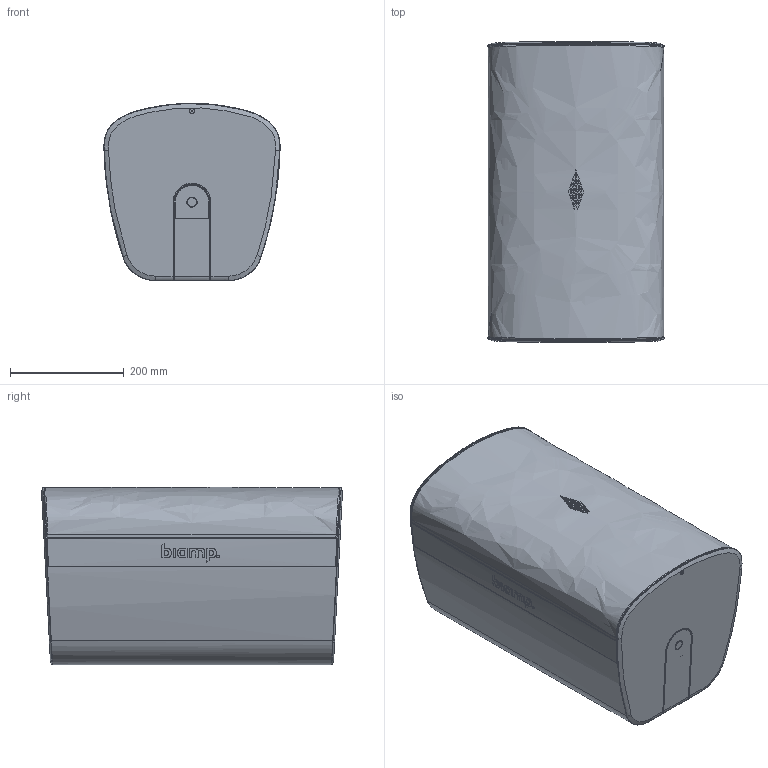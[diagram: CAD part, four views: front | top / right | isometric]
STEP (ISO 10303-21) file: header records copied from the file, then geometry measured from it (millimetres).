
FILE_DESCRIPTION (( 'STEP AP214' ), '1' );
FILE_NAME ('DESONO EX-S10.STEP', '2022-01-11T22:13:16', ( '' ), ( '' ), 'SwSTEP 2.0', 'SolidWorks 2021', '' );
FILE_SCHEMA (( 'AUTOMOTIVE_DESIGN' ));
Length unit declared in the file: millimetre
Products named in the file (1): DESONO EX-S10
Bounding box: 309.62 x 529.12 x 312.24 mm (x, y, z)
Surface area: 969681.5 mm2 (no closed solid volume)
Topology: 0 solids, 152 shells, 570 faces, 3251 edges, 2791 vertices
Faces by surface type: plane 298, bspline 191, cylinder 62, cone 17, sphere 2
Entity records: 63756 total; most frequent: CARTESIAN_POINT 37236, ORIENTED_EDGE 3954, EDGE_CURVE 3247, VERTEX_POINT 2791, DIRECTION 2576, LINE 1450, VECTOR 1450, B_SPLINE_CURVE_WITH_KNOTS 1399
